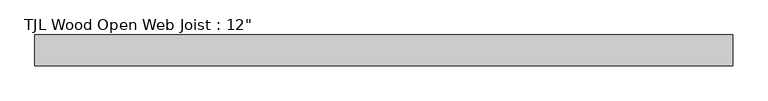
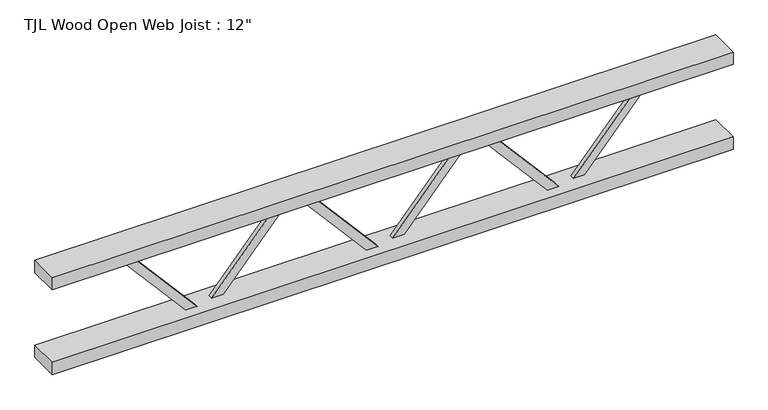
"""IFC4 building model written with IfcOpenShell, lengths in millimetres: beam geometry."""

from ifc_helpers import new_model, si_unit, frame, origin, place, context, project, spatial, polyline, outline, extrude, source, transform, mapped, element, save


def beam_e60dbcd7(model_context):
    return source(origin(), model_context, "Body", "SweptSolid", [
        extrude(outline(polyline([(119.0625, 266.1708333), (144.4625, 266.1708333), (144.4625, 247.6663626), (-119.0625, 19.5955292), (-119.0625, -25.4), (-144.4625, -25.4), (-144.4625, 31.2044708), (119.0625, 259.2753041), (119.0625, 266.1708333)])), frame((0.0, 0.0, 0.0), z_axis=(0.0, 1.0, 0.0), x_axis=(0.0, 0.0, 1.0)), (0.0, 0.0, 1.0), 12.7),
        extrude(outline(polyline([(144.4625, -266.1708333), (119.0625, -266.1708333), (119.0625, -259.2753041), (-144.4625, -31.2044708), (-144.4625, 25.4), (-119.0625, 25.4), (-119.0625, -19.5955292), (144.4625, -247.6663626), (144.4625, -266.1708333)])), frame((0.0, -12.7, 0.0), z_axis=(0.0, 1.0, 0.0), x_axis=(0.0, 0.0, 1.0)), (0.0, 0.0, 1.0), 12.7),
        extrude(outline(polyline([(119.0625, 798.5125), (144.4625, 798.5125), (144.4625, 780.0080292), (-119.0625, 551.9371959), (-119.0625, 506.9416667), (-144.4625, 506.9416667), (-144.4625, 563.5461374), (119.0625, 791.6169708), (119.0625, 798.5125)])), frame((0.0, 0.0, 0.0), z_axis=(0.0, 1.0, 0.0), x_axis=(0.0, 0.0, 1.0)), (0.0, 0.0, 1.0), 12.7),
        extrude(outline(polyline([(144.4625, 266.1708333), (119.0625, 266.1708333), (119.0625, 273.0663626), (-144.4625, 501.1371959), (-144.4625, 557.7416667), (-119.0625, 557.7416667), (-119.0625, 512.7461374), (144.4625, 284.6753041), (144.4625, 266.1708333)])), frame((0.0, -12.7, 0.0), z_axis=(0.0, 1.0, 0.0), x_axis=(0.0, 0.0, 1.0)), (0.0, 0.0, 1.0), 12.7),
        extrude(outline(polyline([(119.0625, -266.1708333), (144.4625, -266.1708333), (144.4625, -284.6753041), (-119.0625, -512.7461374), (-119.0625, -557.7416667), (-144.4625, -557.7416667), (-144.4625, -501.1371959), (119.0625, -273.0663626), (119.0625, -266.1708333)])), frame((0.0, 0.0, 0.0), z_axis=(0.0, 1.0, 0.0), x_axis=(0.0, 0.0, 1.0)), (0.0, 0.0, 1.0), 12.7),
        extrude(outline(polyline([(144.4625, -798.5125), (119.0625, -798.5125), (119.0625, -791.6169708), (-144.4625, -563.5461374), (-144.4625, -506.9416667), (-119.0625, -506.9416667), (-119.0625, -551.9371959), (144.4625, -780.0080292), (144.4625, -798.5125)])), frame((0.0, -12.7, 0.0), z_axis=(0.0, 1.0, 0.0), x_axis=(0.0, 0.0, 1.0)), (0.0, 0.0, 1.0), 12.7),
        extrude(outline(polyline([(1001.7125, 44.45), (1001.7125, -44.45), (-1001.7125, -44.45), (-1001.7125, 44.45), (1001.7125, 44.45)])), frame((0.0, 0.0, 112.7125), z_axis=(0.0, 0.0, 1.0), x_axis=(1.0, 0.0, 0.0)), (0.0, 0.0, 1.0), 38.1),
        extrude(outline(polyline([(1001.7125, 44.45), (1001.7125, -44.45), (-1001.7125, -44.45), (-1001.7125, 44.45), (1001.7125, 44.45)])), frame((0.0, 0.0, -150.8125), z_axis=(0.0, 0.0, 1.0), x_axis=(1.0, 0.0, 0.0)), (0.0, 0.0, 1.0), 38.1),
    ])


if __name__ == "__main__":
    model = new_model("IFC4")
    model_context = context("Model", 3, world=origin())
    ifc_project = project(units=[si_unit("LENGTHUNIT", "METRE", prefix="MILLI")], contexts=[model_context])
    site = spatial("IfcSite", under=ifc_project)
    building = spatial("IfcBuilding", under=site)
    placement = place(None, origin())
    beam_shape = beam_e60dbcd7(model_context)
    element("IfcBeam", 1, ObjectType="TJL Wood Open Web Joist : 12\"", at=placement, inside=building, context=model_context, shape_type="MappedRepresentation", body=[
        mapped(beam_shape, transform((0.0, 0.0, 0.0), x_axis=(1.0, 0.0, 0.0), y_axis=(0.0, 1.0, 0.0), z_axis=(0.0, 0.0, 1.0))),
    ])
    save(model, "model.ifc")
